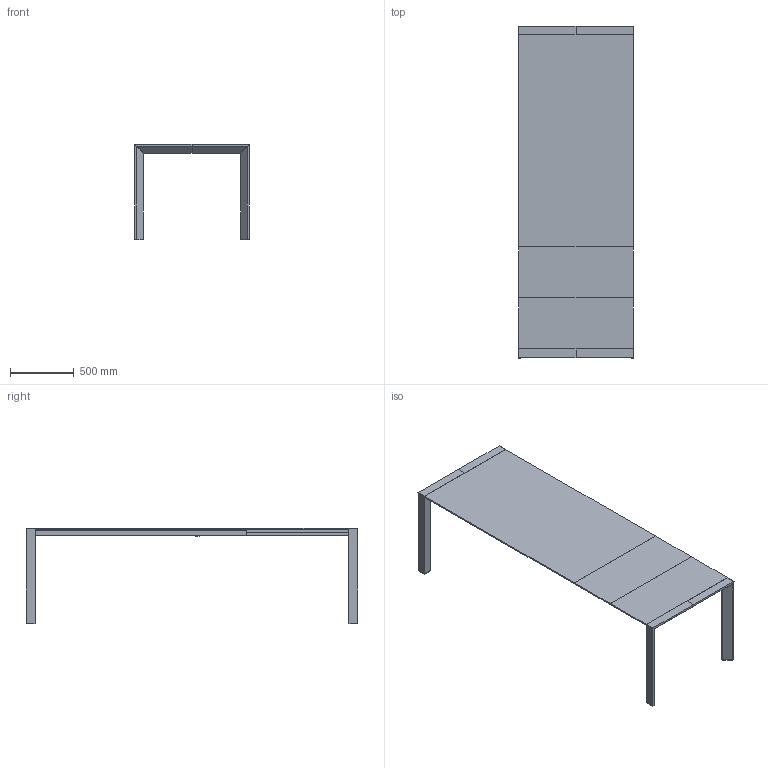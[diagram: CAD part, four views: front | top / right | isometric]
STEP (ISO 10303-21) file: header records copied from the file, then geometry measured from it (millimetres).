
FILE_DESCRIPTION(/* description */ (''),/* implementation_level */ '2;1');
FILE_NAME(/* name */ '10672 - Afill 180+80x90',/* time_stamp */ '2010-11-03T15:14:09+01:00',/* author */ (''),/* organization */ (''),/* preprocessor_version */ 'ST-DEVELOPER v10',/* originating_system */ '',/* authorisation */ '');
FILE_SCHEMA (('CONFIG_CONTROL_DESIGN'));
Length unit declared in the file: centimetre
Products named in the file (1): 1
Bounding box: 902.24 x 2600.6 x 751.1 mm (x, y, z)
Volume: 48808510.8 mm3; surface area: 7125203.2 mm2
Topology: 14 solids, 14 shells, 166 faces, 380 edges, 250 vertices
Faces by surface type: plane 166
Entity records: 4158 total; most frequent: CARTESIAN_POINT 1258, ORIENTED_EDGE 760, EDGE_CURVE 380, B_SPLINE_CURVE_WITH_KNOTS 380, VERTEX_POINT 250, EDGE_LOOP 174, DIRECTION 170, AXIS2_PLACEMENT_3D 168
